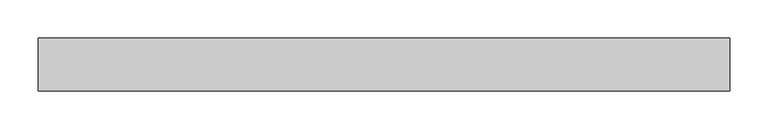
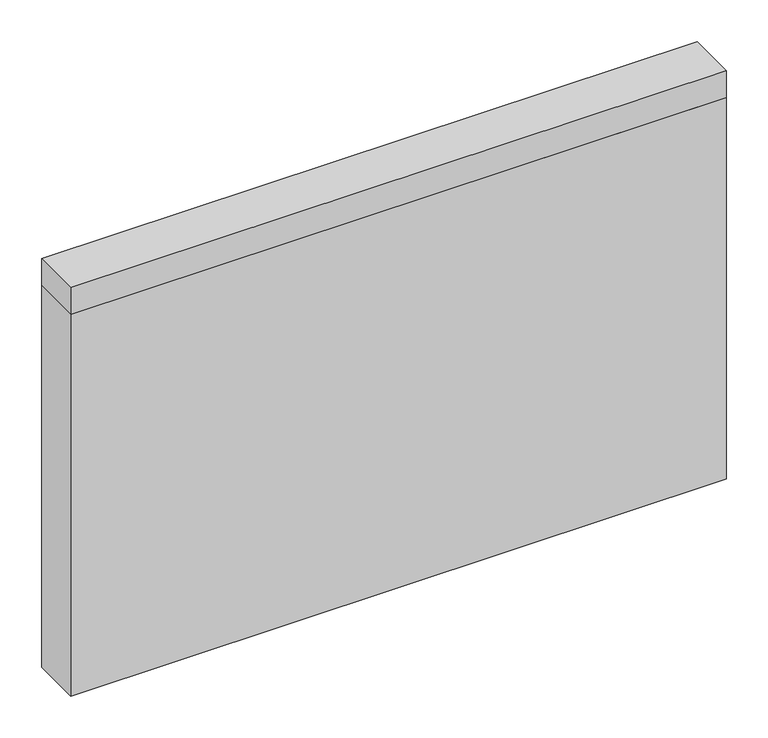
"""IFC4 building model written with IfcOpenShell, lengths in millimetres: plate geometry, 営_パーティションパネル_上部 : パーティションパネル_上部."""

from ifc_helpers import new_model, si_unit, frame, origin, origin_with_axes, place, context, project, spatial, polyline, outline, extrude, source, transform, mapped, element, save


def plate_a020456c(model_context):
    return source(origin(), model_context, "Body", "SweptSolid", [
        extrude(outline(polyline([(-455.0, -35.0), (-455.0, 35.0), (455.0, 35.0), (455.0, -35.0), (-455.0, -35.0)])), origin_with_axes(), (0.0, 0.0, 1.0), 560.0),
        extrude(outline(polyline([(-455.0, -35.0), (-455.0, 35.0), (455.0, 35.0), (455.0, -35.0), (-455.0, -35.0)])), frame((0.0, 0.0, 560.0), z_axis=(0.0, 0.0, 1.0), x_axis=(1.0, 0.0, 0.0)), (0.0, 0.0, 1.0), 40.0),
    ])


if __name__ == "__main__":
    model = new_model("IFC4")
    model_context = context("Model", 3, world=origin())
    ifc_project = project(units=[si_unit("LENGTHUNIT", "METRE", prefix="MILLI")], contexts=[model_context])
    site = spatial("IfcSite", under=ifc_project)
    building = spatial("IfcBuilding", under=site)
    placement = place(None, origin())
    plate_shape = plate_a020456c(model_context)
    element("IfcPlate", 1, ObjectType="営_パーティションパネル_上部 : パーティションパネル_上部", at=placement, inside=building, context=model_context, shape_type="MappedRepresentation", body=[
        mapped(plate_shape, transform((0.0, 0.0, 0.0), x_axis=(1.0, 0.0, 0.0), y_axis=(0.0, 1.0, 0.0), z_axis=(0.0, 0.0, 1.0))),
    ])
    save(model, "model.ifc")
